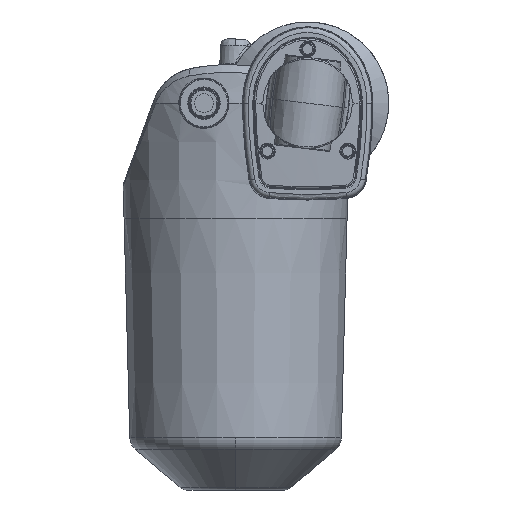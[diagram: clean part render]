
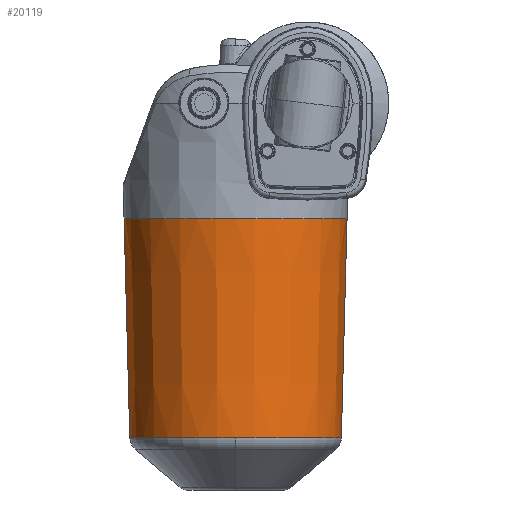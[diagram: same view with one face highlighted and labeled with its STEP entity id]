
A CAD part, left-side view. The second image highlights one B-rep face of the part: STEP entity #20119.
In plain terms, the highlighted conical face has half-angle 1.5 degrees and reference radius 33.538 mm.
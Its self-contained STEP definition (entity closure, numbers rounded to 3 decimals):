
#3595=CARTESIAN_POINT('',(-22.245,22.25,-35.7));
#3596=DIRECTION('',(0.,0.,-1.));
#3597=DIRECTION('',(0.,-1.,0.));
#3598=AXIS2_PLACEMENT_3D('',#3595,#3596,#3597);
#3600=CARTESIAN_POINT('',(-22.245,22.25,-35.7));
#3601=DIRECTION('',(0.,0.,-1.));
#3602=DIRECTION('',(-1.,0.,0.));
#3603=AXIS2_PLACEMENT_3D('',#3600,#3601,#3602);
#5767=DIRECTION('',(0.,-0.026,1.));
#5768=VECTOR('',#5767,67.528);
#5769=CARTESIAN_POINT('',(-22.245,-10.404,-103.205));
#5770=LINE('',#5769,#5768);
#5781=CARTESIAN_POINT('',(-22.245,22.25,-103.205));
#5782=DIRECTION('',(0.,0.,1.));
#5783=DIRECTION('',(0.,1.,0.));
#5784=AXIS2_PLACEMENT_3D('',#5781,#5782,#5783);
#5786=CARTESIAN_POINT('',(-22.245,22.25,-103.205));
#5787=DIRECTION('',(0.,0.,1.));
#5788=DIRECTION('',(-1.,0.003,0.));
#5789=AXIS2_PLACEMENT_3D('',#5786,#5787,#5788);
#5796=DIRECTION('',(0.,0.026,1.));
#5797=VECTOR('',#5796,67.528);
#5798=CARTESIAN_POINT('',(-22.245,54.904,-103.205));
#5799=LINE('',#5798,#5797);
#5800=CARTESIAN_POINT('',(-22.245,22.25,-103.205));
#5801=DIRECTION('',(0.,0.,1.));
#5802=DIRECTION('',(-1.,0.,0.));
#5803=AXIS2_PLACEMENT_3D('',#5800,#5801,#5802);
#10795=CARTESIAN_POINT('',(-22.245,56.665,-35.7));
#10797=VERTEX_POINT('',#10795);
#10799=CARTESIAN_POINT('',(-22.245,-12.165,-35.7));
#10800=VERTEX_POINT('',#10799);
#10811=CARTESIAN_POINT('',(-22.245,54.904,-103.205));
#10813=VERTEX_POINT('',#10811);
#10814=CARTESIAN_POINT('',(-22.245,-10.404,-103.205));
#10815=VERTEX_POINT('',#10814);
#10816=CARTESIAN_POINT('',(-54.899,22.353,
-103.205));
#10817=VERTEX_POINT('',#10816);
#10818=CARTESIAN_POINT('',(-54.899,22.25,-103.205));
#10819=VERTEX_POINT('',#10818);
#10830=CARTESIAN_POINT('',(-56.66,22.25,-35.7));
#10831=VERTEX_POINT('',#10830);
#20104=CARTESIAN_POINT('',(-22.245,22.25,-69.453));
#20105=DIRECTION('',(0.,0.,1.));
#20106=DIRECTION('',(0.,-1.,0.));
#20107=AXIS2_PLACEMENT_3D('',#20104,#20105,#20106);
#20108=CONICAL_SURFACE('',#20107,33.538,1.5);
#20109=ORIENTED_EDGE('',*,*,#20087,.F.);
#20110=ORIENTED_EDGE('',*,*,#20085,.F.);
#20111=ORIENTED_EDGE('',*,*,#20073,.T.);
#20112=ORIENTED_EDGE('',*,*,#17224,.F.);
#20113=ORIENTED_EDGE('',*,*,#17222,.F.);
#20114=ORIENTED_EDGE('',*,*,#20069,.F.);
#20116=ORIENTED_EDGE('',*,*,#20115,.F.);
#20117=EDGE_LOOP('',(#20109,#20110,#20111,#20112,#20113,#20114,#20116));
#20118=FACE_OUTER_BOUND('',#20117,.F.);
#20119=ADVANCED_FACE('',(#20118),#20108,.T.);
#3599=CIRCLE('',#3598,34.415);
#3604=CIRCLE('',#3603,34.415);
#5785=CIRCLE('',#5784,32.654);
#5790=CIRCLE('',#5789,32.654);
#5804=CIRCLE('',#5803,32.654);
#17222=EDGE_CURVE('',#10800,#10831,#3599,.T.);
#17224=EDGE_CURVE('',#10831,#10797,#3604,.T.);
#20069=EDGE_CURVE('',#10815,#10800,#5770,.T.);
#20073=EDGE_CURVE('',#10813,#10797,#5799,.T.);
#20085=EDGE_CURVE('',#10813,#10817,#5785,.T.);
#20087=EDGE_CURVE('',#10817,#10819,#5790,.T.);
#20115=EDGE_CURVE('',#10819,#10815,#5804,.T.);
